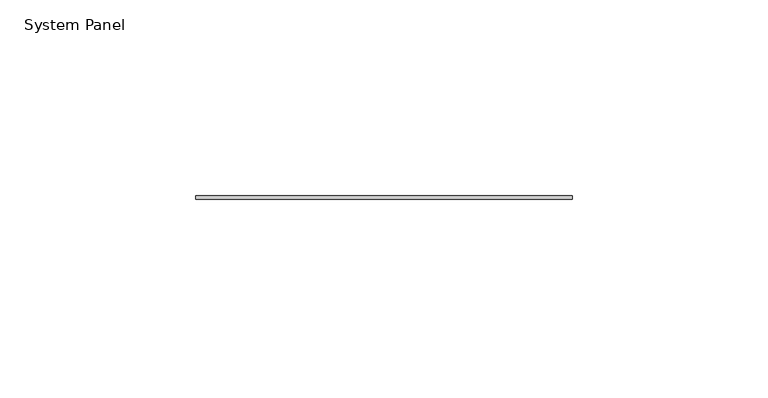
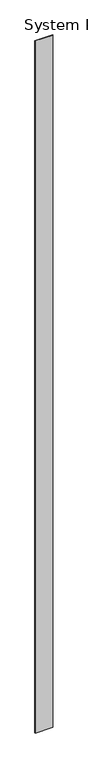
"""IFC4 building model written with IfcOpenShell, lengths in millimetres: plate geometry, System Panel : Stratco_Hiland_Tray."""

import ifcopenshell
import ifcopenshell.guid

model = None  # the IFC model being written
_history = None  # IfcOwnerHistory: only IFC2X3 demands one
_inside = {}  # id of a spatial element -> (the spatial element, [elements in it])
_under = {}  # id of a project, library or spatial element -> (it, [spatial elements below it])
_declared = {}  # id of a project -> (the project, [libraries it declares])
_typed = {}  # id of a type object -> (the type object, [elements of that type])
_made_of = {}  # id of a material, layer set ... -> (it, [elements and type objects made of it])


def new_model(schema):
    """Start an empty IFC model of exactly this schema.

    Asked for "IFC4X3", IfcOpenShell would pick the latest addendum, in which some entities
    have other attributes; the version numbers below select the first issue.
    IFC2X3 requires an IfcOwnerHistory on every rooted entity: one is made here for all.
    """
    global model, _history
    if schema == "IFC4X3":
        model = ifcopenshell.file(schema_version=(4, 3, 0, 0))
    else:
        model = ifcopenshell.file(schema=schema)
    _inside.clear()
    _under.clear()
    _declared.clear()
    _typed.clear()
    _made_of.clear()
    _history = None
    if model.schema == "IFC2X3":
        org = make("IfcOrganization", Name="unknown")
        user = make(
            "IfcPersonAndOrganization",
            ThePerson=make("IfcPerson", FamilyName="unknown"),
            TheOrganization=org,
        )
        app = make(
            "IfcApplication",
            ApplicationDeveloper=org,
            Version="unknown",
            ApplicationFullName="unknown",
            ApplicationIdentifier="unknown",
        )
        _history = make(
            "IfcOwnerHistory",
            OwningUser=user,
            OwningApplication=app,
            ChangeAction="ADDED",
            CreationDate=0,
        )
    return model


def make(cls, **values):
    """One entity of the class cls with the attributes given. An attribute that is None is left unset."""
    return model.create_entity(
        cls, **{name: value for name, value in values.items() if value is not None}
    )


def rooted(cls, **values):
    """An entity with a GlobalId (a new one), such as an element, a storey or a relation."""
    return make(cls, GlobalId=ifcopenshell.guid.new(), OwnerHistory=_history, **values)


def si_unit(unit_type, name, prefix=None):
    """IfcSIUnit, for example si_unit("LENGTHUNIT", "METRE", prefix="MILLI")."""
    return make("IfcSIUnit", UnitType=unit_type, Prefix=prefix, Name=name)


def assignment(units):
    """IfcUnitAssignment: the units of a project."""
    return None if units is None else make("IfcUnitAssignment", Units=units)


def point(xyz):
    """IfcCartesianPoint."""
    return None if xyz is None else make("IfcCartesianPoint", Coordinates=xyz)


def direction(xyz):
    """IfcDirection."""
    return None if xyz is None else make("IfcDirection", DirectionRatios=xyz)


def frame(location, z_axis=None, x_axis=None):
    """IfcAxis2Placement3D, a coordinate frame: its origin and axes. An axis left out is left unset."""
    return make(
        "IfcAxis2Placement3D",
        Location=point(location),
        Axis=direction(z_axis),
        RefDirection=direction(x_axis),
    )


def origin():
    """The frame at (0, 0, 0) with its axes left unset."""
    return frame((0.0, 0.0, 0.0))


def origin_with_axes():
    """The frame at (0, 0, 0) with the z axis (0, 0, 1) and the x axis (1, 0, 0) written out."""
    return frame((0.0, 0.0, 0.0), z_axis=(0.0, 0.0, 1.0), x_axis=(1.0, 0.0, 0.0))


def place(relative_to, where):
    """IfcLocalPlacement: puts the frame where relative to a parent placement (None: the world)."""
    return make(
        "IfcLocalPlacement", PlacementRelTo=relative_to, RelativePlacement=where
    )


def context(
    kind, dimensions, precision=None, world=None, true_north=None, identifier=None
):
    """IfcGeometricRepresentationContext, for example the 3D "Model" context."""
    return make(
        "IfcGeometricRepresentationContext",
        ContextIdentifier=identifier,
        ContextType=kind,
        CoordinateSpaceDimension=dimensions,
        Precision=precision,
        WorldCoordinateSystem=world,
        TrueNorth=true_north,
    )


def project(units=None, contexts=None):
    """IfcProject with its units and contexts."""
    return rooted(
        "IfcProject",
        Name="project",
        RepresentationContexts=contexts,
        UnitsInContext=assignment(units),
    )


def spatial(cls, under=None, at=None, **own):
    """A site, building, storey or space (cls), placed at a placement, below another one or the project."""
    s = rooted(cls, ObjectPlacement=at, **own)
    if under is not None:
        _under.setdefault(under.id(), (under, []))[1].append(s)
    return s


def polyline(points):
    """IfcPolyline through the points."""
    return make("IfcPolyline", Points=[point(p) for p in points])


def outline(outer, holes=None, kind="AREA"):
    """IfcArbitraryClosedProfileDef: a profile drawn as a closed curve; with holes, ...WithVoids."""
    if holes is None:
        return make("IfcArbitraryClosedProfileDef", ProfileType=kind, OuterCurve=outer)
    return make(
        "IfcArbitraryProfileDefWithVoids",
        ProfileType=kind,
        OuterCurve=outer,
        InnerCurves=holes,
    )


def extrude(swept, where, along, depth):
    """IfcExtrudedAreaSolid: the profile swept, set in the frame where, extruded along a direction by depth."""
    return make(
        "IfcExtrudedAreaSolid",
        SweptArea=swept,
        Position=where,
        ExtrudedDirection=direction(along),
        Depth=depth,
    )


def shape(context_of_items, identifier, shape_type, items):
    """IfcShapeRepresentation: the items that make up one representation, for example the "Body"."""
    return make(
        "IfcShapeRepresentation",
        ContextOfItems=context_of_items,
        RepresentationIdentifier=identifier,
        RepresentationType=shape_type,
        Items=items,
    )


def source(mapping_origin, context_of_items, identifier, shape_type, items):
    """IfcRepresentationMap: a shape defined once, which mapped items show again and again."""
    return make(
        "IfcRepresentationMap",
        MappingOrigin=mapping_origin,
        MappedRepresentation=shape(context_of_items, identifier, shape_type, items),
    )


def transform(
    local_origin,
    x_axis=None,
    y_axis=None,
    z_axis=None,
    scale=None,
    scale2=None,
    scale3=None,
    uniform=True,
):
    """IfcCartesianTransformationOperator3D, or its non-uniform kind. x_axis, y_axis, z_axis: its Axis1, 2, 3."""
    if uniform:
        return make(
            "IfcCartesianTransformationOperator3D",
            Axis1=direction(x_axis),
            Axis2=direction(y_axis),
            LocalOrigin=point(local_origin),
            Scale=scale,
            Axis3=direction(z_axis),
        )
    return make(
        "IfcCartesianTransformationOperator3DnonUniform",
        Axis1=direction(x_axis),
        Axis2=direction(y_axis),
        LocalOrigin=point(local_origin),
        Scale=scale,
        Axis3=direction(z_axis),
        Scale2=scale2,
        Scale3=scale3,
    )


def mapped(mapping_source, mapping_target):
    """IfcMappedItem: shows the shape of a source again, moved by a transform."""
    return make(
        "IfcMappedItem", MappingSource=mapping_source, MappingTarget=mapping_target
    )


def made_of(thing, what):
    """Note that an element or type object is made of a material, layer set ...; save() writes the relation."""
    if what is not None:
        _made_of.setdefault(what.id(), (what, []))[1].append(thing)
    return thing


def element(
    cls,
    number,
    at=None,
    inside=None,
    cuts=None,
    type_object=None,
    material=None,
    context=None,
    identifier="Body",
    shape_type=None,
    held_by="IfcProductDefinitionShape",
    body=None,
    shapes=None,
    **own,
):
    """One element of the class cls, such as IfcWall. Its Tag is "e" and its number.

    at: its placement. inside: the storey or other place that contains it. cuts: it is an
    opening in that element (IfcRelVoidsElement). A single representation is given by context,
    identifier, shape_type and body (its items); several are given by shapes. held_by: the class
    of the entity that holds the representations. save() writes the other relations.
    """
    e = rooted(cls, Tag="e%d" % number, ObjectPlacement=at, **own)
    if body is not None:
        shapes = [shape(context, identifier, shape_type, body)]
    if shapes is not None:
        e.Representation = make(held_by, Representations=shapes)
    if inside is not None:
        _inside.setdefault(inside.id(), (inside, []))[1].append(e)
    if cuts is not None:
        rooted(
            "IfcRelVoidsElement", RelatingBuildingElement=cuts, RelatedOpeningElement=e
        )
    if type_object is not None:
        _typed.setdefault(type_object.id(), (type_object, []))[1].append(e)
    return made_of(e, material)


def aggregate(whole, parts):
    """IfcRelAggregates: a whole, such as a stair, and the parts it consists of."""
    return rooted("IfcRelAggregates", RelatingObject=whole, RelatedObjects=parts)


def save(model, path):
    """Write the relations noted so far, then the file.

    IfcRelAggregates (storeys below a building ...), IfcRelContainedInSpatialStructure (elements
    in a storey), IfcRelDefinesByType, IfcRelAssociatesMaterial and IfcRelDeclares: one each for
    every whole, place, type object, material and project.
    """
    for whole, parts in _under.values():
        aggregate(whole, parts)
    for where, things in _inside.values():
        rooted(
            "IfcRelContainedInSpatialStructure",
            RelatedElements=things,
            RelatingStructure=where,
        )
    for kind, things in _typed.values():
        rooted("IfcRelDefinesByType", RelatedObjects=things, RelatingType=kind)
    for what, things in _made_of.values():
        rooted("IfcRelAssociatesMaterial", RelatedObjects=things, RelatingMaterial=what)
    for by, libraries in _declared.values():
        rooted("IfcRelDeclares", RelatingContext=by, RelatedDefinitions=libraries)
    model.write(path)


def system_panel_60fa6abd(model_context):
    return source(origin(), model_context, "Body", "SweptSolid", [
        extrude(outline(polyline([(48.1834018, 2.5), (-48.1834018, 2.5), (-48.1834018, 3.5), (48.1834018, 3.5), (48.1834018, 2.5)])), origin_with_axes(), (0.0, 0.0, 1.0), 4000.0),
    ])


if __name__ == "__main__":
    model = new_model("IFC4")
    model_context = context("Model", 3, world=origin())
    ifc_project = project(units=[si_unit("LENGTHUNIT", "METRE", prefix="MILLI")], contexts=[model_context])
    site = spatial("IfcSite", under=ifc_project)
    building = spatial("IfcBuilding", under=site)
    placement = place(None, origin())
    system_panel_shape = system_panel_60fa6abd(model_context)
    element("IfcPlate", 1, ObjectType="System Panel : Stratco_Hiland_Tray", at=placement, inside=building, context=model_context, shape_type="MappedRepresentation", body=[
        mapped(system_panel_shape, transform((0.0, 0.0, 0.0), x_axis=(1.0, 0.0, 0.0), y_axis=(0.0, 1.0, 0.0), z_axis=(0.0, 0.0, 1.0))),
    ])
    save(model, "model.ifc")
